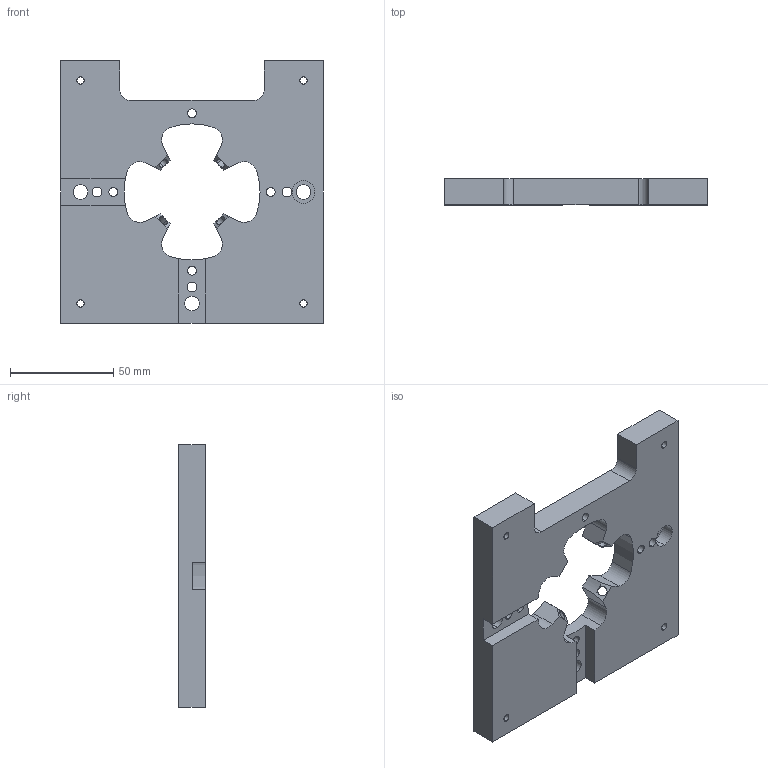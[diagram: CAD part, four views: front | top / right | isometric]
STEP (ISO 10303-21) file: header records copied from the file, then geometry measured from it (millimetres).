
FILE_DESCRIPTION (( 'STEP AP214' ), '1' );
FILE_NAME ('Mount reverse engineered.STEP', '2023-12-01T18:12:51', ( '' ), ( '' ), 'SwSTEP 2.0', 'SolidWorks 2023', '' );
FILE_SCHEMA (( 'AUTOMOTIVE_DESIGN' ));
Length unit declared in the file: inch
Products named in the file (1): Mount reverse engineered
Bounding box: 127 x 12.7 x 127 mm (x, y, z)
Volume: 143636 mm3; surface area: 37629.7 mm2
Topology: 1 solids, 1 shells, 101 faces, 297 edges, 198 vertices
Faces by surface type: cylinder 67, plane 34
Entity records: 3544 total; most frequent: CARTESIAN_POINT 673, DIRECTION 611, ORIENTED_EDGE 594, EDGE_CURVE 297, AXIS2_PLACEMENT_3D 232, VERTEX_POINT 198, LINE 147, VECTOR 147
